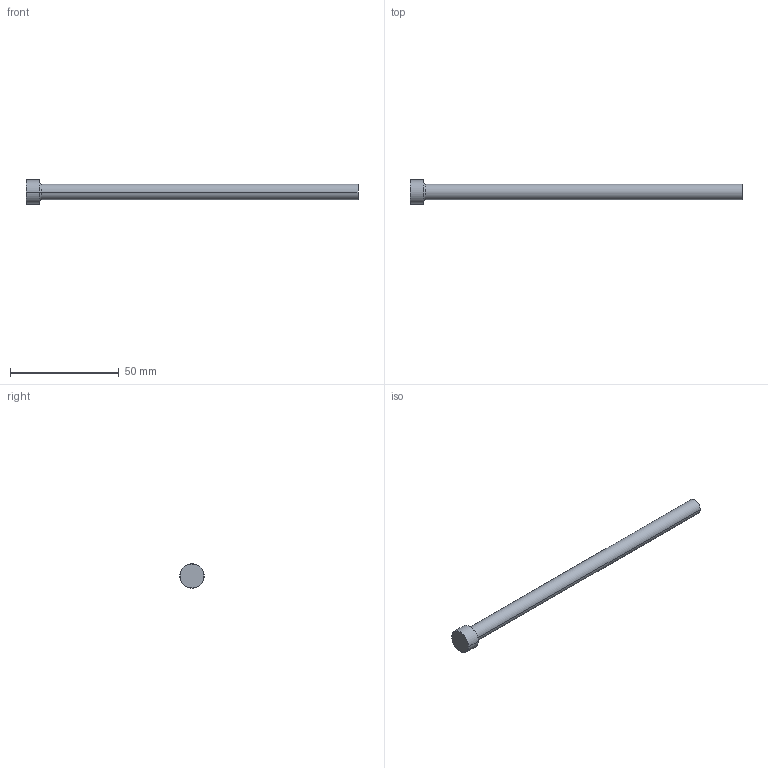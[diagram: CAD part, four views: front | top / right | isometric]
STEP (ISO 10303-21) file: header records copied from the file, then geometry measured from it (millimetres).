
FILE_DESCRIPTION (( 'STEP AP214' ), '1' );
FILE_NAME ('P19-6.STEP', '2020-03-12T08:59:18', ( '' ), ( '' ), 'SwSTEP 2.0', 'SolidWorks 2018', '' );
FILE_SCHEMA (( 'AUTOMOTIVE_DESIGN' ));
Length unit declared in the file: inch
Products named in the file (1): P19-6
Bounding box: 152.4 x 11.11 x 11.11 mm (x, y, z)
Volume: 6459.8 mm3; surface area: 3678.7 mm2
Topology: 1 solids, 1 shells, 13 faces, 24 edges, 14 vertices
Faces by surface type: cone 4, cylinder 4, plane 3, torus 2
Entity records: 366 total; most frequent: DIRECTION 68, CARTESIAN_POINT 52, ORIENTED_EDGE 48, AXIS2_PLACEMENT_3D 30, EDGE_CURVE 24, CIRCLE 16, VERTEX_POINT 14, EDGE_LOOP 14
